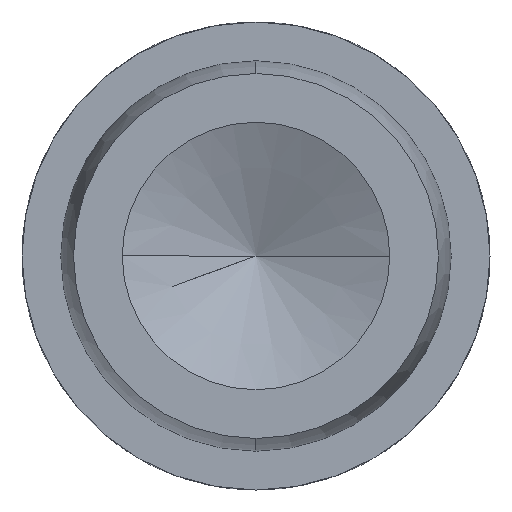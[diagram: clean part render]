
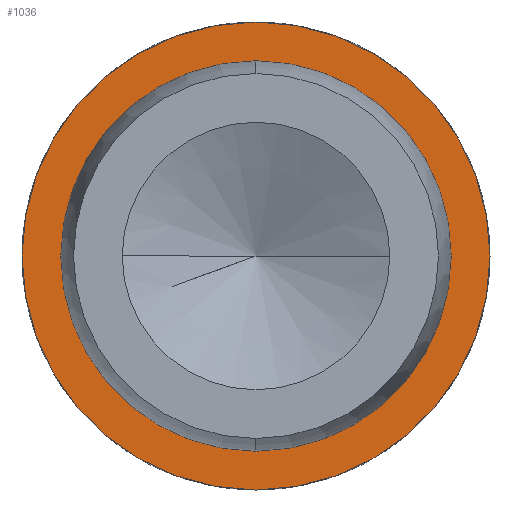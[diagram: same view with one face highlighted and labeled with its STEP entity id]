
A CAD part, left-side view. The second image highlights one B-rep face of the part: STEP entity #1036.
In plain terms, the highlighted planar face has unit normal (-1, 0, 0).
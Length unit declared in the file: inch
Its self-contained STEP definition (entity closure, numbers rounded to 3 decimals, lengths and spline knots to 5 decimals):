
#14 = CARTESIAN_POINT ( 'NONE',  ( -0.75, 0., 0. ) ) ;
#31 = DIRECTION ( 'NONE',  ( 0., 0., 1. ) ) ;
#33 = VERTEX_POINT ( 'NONE', #235 ) ;
#43 = CARTESIAN_POINT ( 'NONE',  ( -0.75, 0., -0.365 ) ) ;
#57 = CARTESIAN_POINT ( 'NONE',  ( -0.75, 0., -0.4375 ) ) ;
#91 = CIRCLE ( 'NONE', #708, 0.4375 ) ;
#106 = FACE_OUTER_BOUND ( 'NONE', #703, .T. ) ;
#150 = EDGE_CURVE ( 'NONE', #536, #551, #386, .T. ) ;
#162 = ORIENTED_EDGE ( 'NONE', *, *, #1040, .F. ) ;
#192 = DIRECTION ( 'NONE',  ( -1., 0., 0. ) ) ;
#201 = DIRECTION ( 'NONE',  ( -1., 0., 0. ) ) ;
#235 = CARTESIAN_POINT ( 'NONE',  ( -0.75, 0., 0.4375 ) ) ;
#236 = CARTESIAN_POINT ( 'NONE',  ( -0.75, 0., -0.365 ) ) ;
#255 = CARTESIAN_POINT ( 'NONE',  ( -0.75, 0., 0. ) ) ;
#275 = ORIENTED_EDGE ( 'NONE', *, *, #937, .T. ) ;
#352 = EDGE_CURVE ( 'NONE', #1217, #33, #1124, .T. ) ;
#386 = CIRCLE ( 'NONE', #894, 0.365 ) ;
#493 = DIRECTION ( 'NONE',  ( 0., 0., 1. ) ) ;
#494 = DIRECTION ( 'NONE',  ( -1., 0., 0. ) ) ;
#511 = DIRECTION ( 'NONE',  ( 0., 0., 1. ) ) ;
#515 = CARTESIAN_POINT ( 'NONE',  ( -0.75, 0., 0. ) ) ;
#536 = VERTEX_POINT ( 'NONE', #43 ) ;
#551 = VERTEX_POINT ( 'NONE', #830 ) ;
#651 = DIRECTION ( 'NONE',  ( -1., 0., 0. ) ) ;
#679 = FACE_BOUND ( 'NONE', #1005, .T. ) ;
#682 = CIRCLE ( 'NONE', #1117, 0.365 ) ;
#683 = ORIENTED_EDGE ( 'NONE', *, *, #150, .F. ) ;
#703 = EDGE_LOOP ( 'NONE', ( #275, #941 ) ) ;
#708 = AXIS2_PLACEMENT_3D ( 'NONE', #515, #494, #1095 ) ;
#744 = DIRECTION ( 'NONE',  ( 0., 0., 1. ) ) ;
#830 = CARTESIAN_POINT ( 'NONE',  ( -0.75, 0., 0.365 ) ) ;
#831 = AXIS2_PLACEMENT_3D ( 'NONE', #1131, #192, #511 ) ;
#893 = DIRECTION ( 'NONE',  ( -1., 0., 0. ) ) ;
#894 = AXIS2_PLACEMENT_3D ( 'NONE', #255, #651, #744 ) ;
#937 = EDGE_CURVE ( 'NONE', #33, #1217, #91, .T. ) ;
#941 = ORIENTED_EDGE ( 'NONE', *, *, #352, .T. ) ;
#1005 = EDGE_LOOP ( 'NONE', ( #162, #683 ) ) ;
#1036 = ADVANCED_FACE ( 'NONE', ( #679, #106 ), #1046, .T. ) ;
#1040 = EDGE_CURVE ( 'NONE', #551, #536, #682, .T. ) ;
#1046 = PLANE ( 'NONE',  #1178 ) ;
#1095 = DIRECTION ( 'NONE',  ( 0., 0., 1. ) ) ;
#1117 = AXIS2_PLACEMENT_3D ( 'NONE', #14, #893, #31 ) ;
#1124 = CIRCLE ( 'NONE', #831, 0.4375 ) ;
#1131 = CARTESIAN_POINT ( 'NONE',  ( -0.75, 0., 0. ) ) ;
#1178 = AXIS2_PLACEMENT_3D ( 'NONE', #236, #201, #493 ) ;
#1217 = VERTEX_POINT ( 'NONE', #57 ) ;
